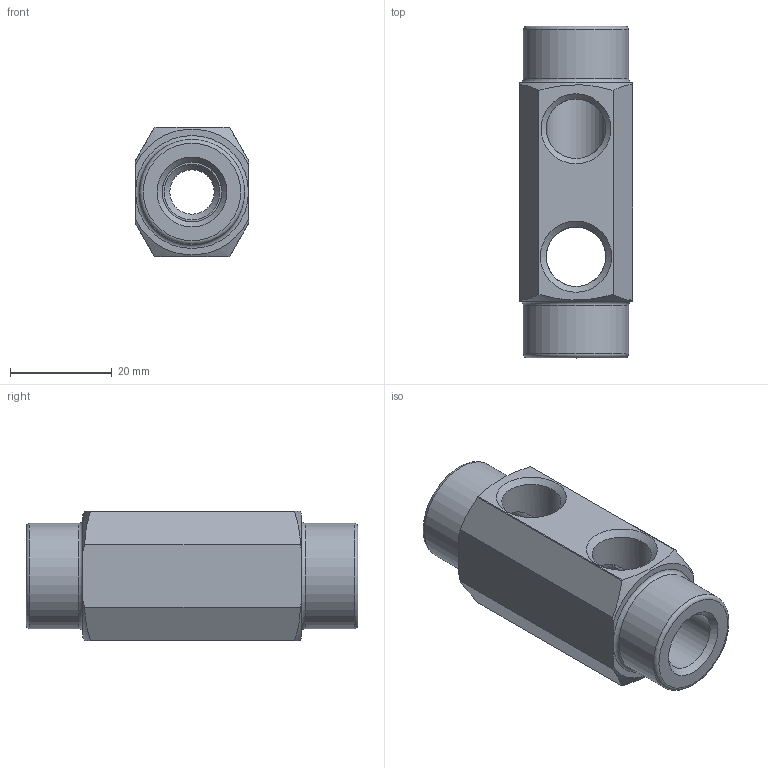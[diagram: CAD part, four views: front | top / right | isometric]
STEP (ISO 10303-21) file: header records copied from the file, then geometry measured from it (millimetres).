
FILE_DESCRIPTION(/* description */ (''),/* implementation_level */ '2;1');
FILE_NAME(/* name */ 'C:/Users/drich/Desktop/141H-4-RL v1.step',/* time_stamp */ '2020-01-10T21:54:12-06:00',/* author */ (''),/* organization */ (''),/* preprocessor_version */ 'ST-DEVELOPER v18',/* originating_system */ 'Autodesk Translation Framework v8.12.0.6',/* authorisation */ '');
FILE_SCHEMA (('AUTOMOTIVE_DESIGN { 1 0 10303 214 3 1 1 }'));
Length unit declared in the file: inch
Products named in the file (2): 141H-4-RL; 141H-RL
Assembly tree (1 placements, depth 2):
  141H-4-RL
    141H-RL
Bounding box: 22.2 x 65.07 x 25.4 mm (x, y, z)
Volume: 20352.8 mm3; surface area: 8207.2 mm2
Topology: 1 solids, 1 shells, 46 faces, 129 edges, 87 vertices
Faces by surface type: cone 17, plane 13, cylinder 12, torus 4
Full cylindrical faces by diameter (mm): 8.707 x1, 11.668 x5, 20.625 x2
Entity records: 1607 total; most frequent: CARTESIAN_POINT 338, DIRECTION 272, ORIENTED_EDGE 258, EDGE_CURVE 129, AXIS2_PLACEMENT_3D 120, VERTEX_POINT 87, CIRCLE 63, EDGE_LOOP 56
